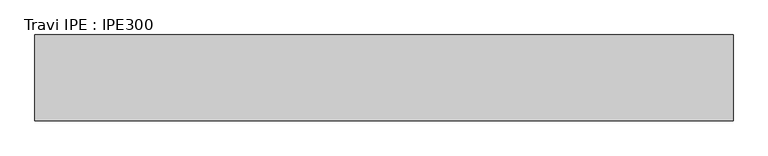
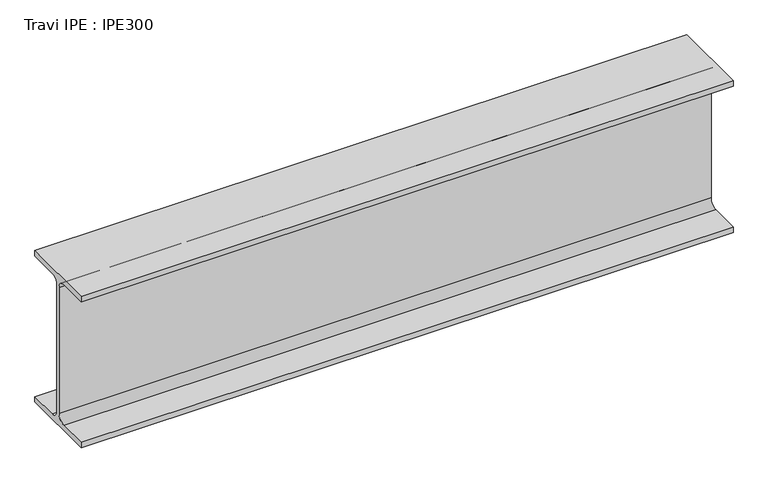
"""IFC4 building model written with IfcOpenShell, lengths in millimetres: beam geometry, Travi IPE : IPE300."""

from ifc_helpers import new_model, si_unit, point, frame, frame_2d, origin, place, context, project, spatial, polyline, circle_curve, trimmed, segment, composite_curve, outline, extrude, source, transform, mapped, element, save


def travi_ipe_ipe300_f6032196(model_context):
    return source(origin(), model_context, "Body", "SweptSolid", [
        extrude(outline(composite_curve([segment(polyline([(75.0, -139.3), (75.0, -150.0), (-75.0, -150.0), (-75.0, -139.3), (-18.55, -139.3)]), True, "CONTINUOUS"), segment(trimmed(circle_curve(frame_2d((-18.55, -124.3)), 15.0), [point((-18.55, -139.3))], [point((-3.55, -124.3))], True, "CARTESIAN"), True, "CONTINUOUS"), segment(polyline([(-3.55, -124.3), (-3.55, 124.3)]), True, "CONTINUOUS"), segment(trimmed(circle_curve(frame_2d((-18.55, 124.3)), 15.0), [point((-3.55, 124.3))], [point((-18.55, 139.3))], True, "CARTESIAN"), True, "CONTINUOUS"), segment(polyline([(-18.55, 139.3), (-75.0, 139.3), (-75.0, 150.0), (75.0, 150.0), (75.0, 139.3), (18.55, 139.3)]), True, "CONTINUOUS"), segment(trimmed(circle_curve(frame_2d((18.55, 124.3)), 15.0), [point((18.55, 139.3))], [point((3.55, 124.3))], True, "CARTESIAN"), True, "CONTINUOUS"), segment(polyline([(3.55, 124.3), (3.55, -124.3)]), True, "CONTINUOUS"), segment(trimmed(circle_curve(frame_2d((18.55, -124.3)), 15.0), [point((3.55, -124.3))], [point((18.55, -139.3))], True, "CARTESIAN"), True, "CONTINUOUS"), segment(polyline([(18.55, -139.3), (75.0, -139.3)]), True, "CONTINUOUS")], self_intersect=False)), frame((-412.5, 0.0, 0.0), z_axis=(1.0, 0.0, 0.0), x_axis=(0.0, 1.0, 0.0)), (0.0, 0.0, 1.0), 1219.8944393),
    ])


if __name__ == "__main__":
    model = new_model("IFC4")
    model_context = context("Model", 3, world=origin())
    ifc_project = project(units=[si_unit("LENGTHUNIT", "METRE", prefix="MILLI")], contexts=[model_context])
    site = spatial("IfcSite", under=ifc_project)
    building = spatial("IfcBuilding", under=site)
    placement = place(None, origin())
    travi_ipe_ipe300_shape = travi_ipe_ipe300_f6032196(model_context)
    element("IfcBeam", 1, ObjectType="Travi IPE : IPE300", at=placement, inside=building, context=model_context, shape_type="MappedRepresentation", body=[
        mapped(travi_ipe_ipe300_shape, transform((0.0, 0.0, 0.0), x_axis=(1.0, 0.0, 0.0), y_axis=(0.0, 1.0, 0.0), z_axis=(0.0, 0.0, 1.0))),
    ])
    save(model, "model.ifc")
